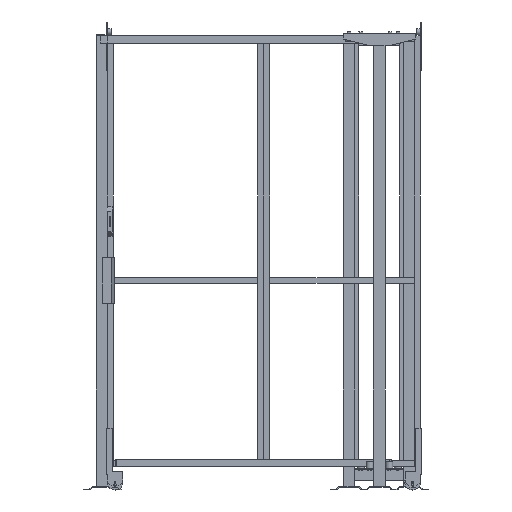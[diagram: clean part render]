
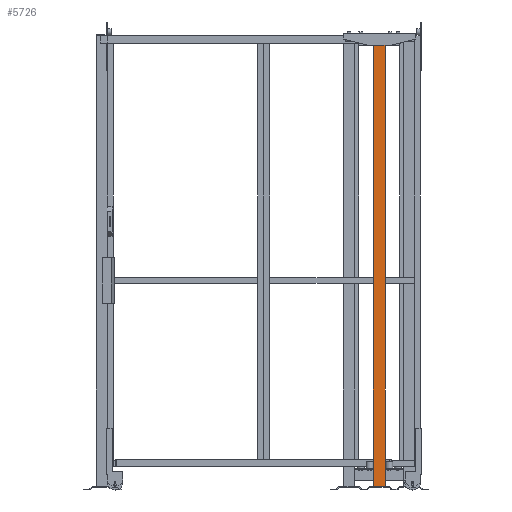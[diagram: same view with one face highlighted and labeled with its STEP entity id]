
A CAD part, front view. The second image highlights one B-rep face of the part: STEP entity #5726.
In plain terms, the highlighted planar face has unit normal (0, -1, 0) as drawn and (-1, 0, 0) by its records, which use the part's own axes.
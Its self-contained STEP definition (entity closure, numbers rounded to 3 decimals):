
#553=FACE_OUTER_BOUND('',#990,.T.);
#990=EDGE_LOOP('',(#3554,#3555,#3556,#3557));
#1480=VERTEX_POINT('',#12134);
#1481=VERTEX_POINT('',#12136);
#1484=VERTEX_POINT('',#12143);
#1485=VERTEX_POINT('',#12145);
#2294=EDGE_CURVE('',#1480,#1481,#6720,.T.);
#2298=EDGE_CURVE('',#1484,#1485,#6724,.T.);
#2300=EDGE_CURVE('',#1481,#1484,#6726,.T.);
#2302=EDGE_CURVE('',#1480,#1485,#6728,.T.);
#3554=ORIENTED_EDGE('',*,*,#2302,.T.);
#3555=ORIENTED_EDGE('',*,*,#2298,.F.);
#3556=ORIENTED_EDGE('',*,*,#2300,.F.);
#3557=ORIENTED_EDGE('',*,*,#2294,.F.);
#5333=PLANE('',#8630);
#5726=ADVANCED_FACE('',(#553),#5333,.F.);
#6720=LINE('',#12137,#7752);
#6724=LINE('',#12146,#7756);
#6726=LINE('',#12149,#7758);
#6728=LINE('',#12152,#7760);
#7752=VECTOR('',#9598,1.);
#7756=VECTOR('',#9604,1.);
#7758=VECTOR('',#9608,1.);
#7760=VECTOR('',#9612,1.);
#8630=AXIS2_PLACEMENT_3D('',#12151,#9610,#9611);
#9598=DIRECTION('',(0.,-1.,0.));
#9604=DIRECTION('',(0.,1.,0.));
#9608=DIRECTION('',(0.,0.,-1.));
#9610=DIRECTION('center_axis',(1.,0.,0.));
#9611=DIRECTION('ref_axis',(0.,0.,-1.));
#9612=DIRECTION('',(0.,0.,-1.));
#12134=CARTESIAN_POINT('',(-30.,30.,2320.));
#12136=CARTESIAN_POINT('',(-30.,-30.,2320.));
#12137=CARTESIAN_POINT('',(-30.,0.,2320.));
#12143=CARTESIAN_POINT('',(-30.,-30.,20.));
#12145=CARTESIAN_POINT('',(-30.,30.,20.));
#12146=CARTESIAN_POINT('',(-30.,0.,20.));
#12149=CARTESIAN_POINT('',(-30.,-30.,1170.));
#12151=CARTESIAN_POINT('Origin',(-30.,0.,
1170.));
#12152=CARTESIAN_POINT('',(-30.,30.,1170.));
